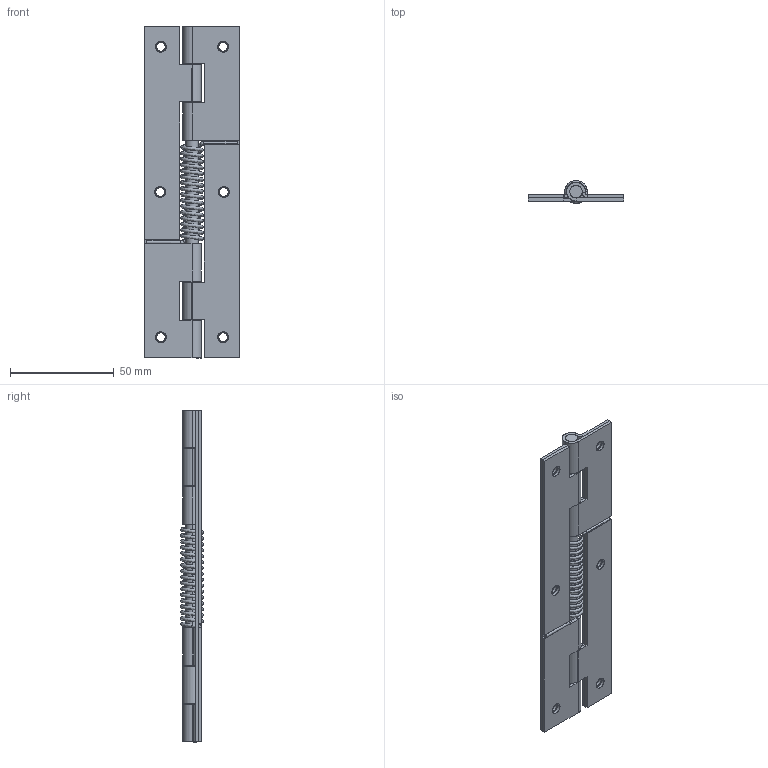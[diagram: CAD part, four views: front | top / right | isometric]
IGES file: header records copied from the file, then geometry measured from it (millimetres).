
Start section: SolidWorks IGES file using analytic representation for surfaces
Global section: file name: C:\Users\cbrechard\Desktop\cc 1474 E\CC 1474 E.IGS; native system: SolidWorks 2008; preprocessor: SolidWorks 2008; author: cbrechard; date: 120124.125311; units: millimetre
Bounding box: 46 x 10.99 x 160 mm (x, y, z)
Surface area: 35419.4 mm2 (no closed solid volume)
Topology: 0 solids, 0 shells, 185 faces, 2430 edges, 2428 vertices
Faces by surface type: bspline 95, revolution 90
